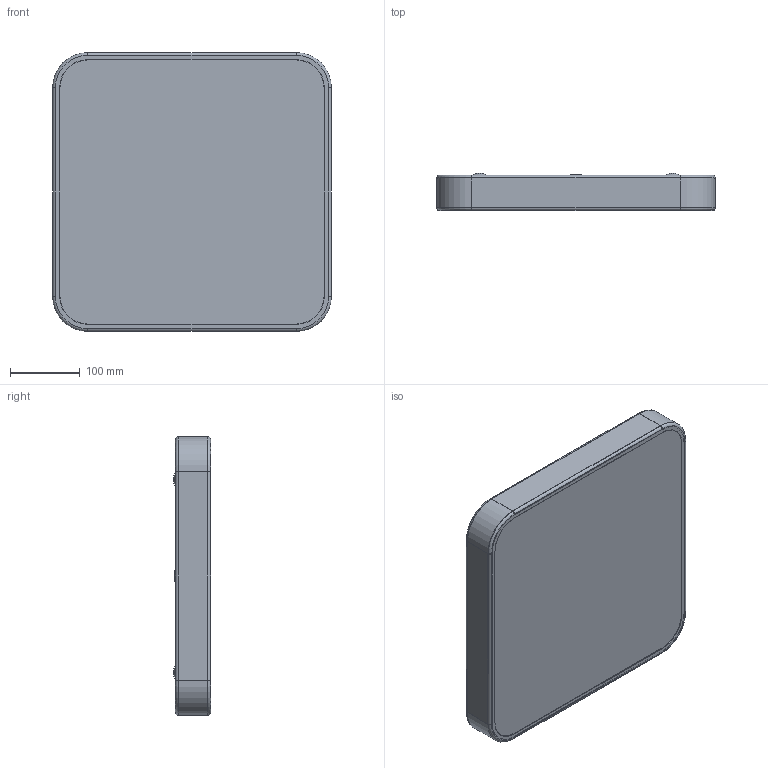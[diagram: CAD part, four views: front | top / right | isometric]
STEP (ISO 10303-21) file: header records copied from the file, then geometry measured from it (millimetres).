
FILE_DESCRIPTION((''),'2;1');
FILE_NAME('400_ASM','2026-03-17T17:02:02',('Administrator'),(''),'CREO PARAMETRIC BY PTC INC, 2021164','CREO PARAMETRIC BY PTC INC, 2021164','');
FILE_SCHEMA(('CONFIG_CONTROL_DESIGN','SHAPE_APPEARANCE_LAYERS_GROUPS'));
Length unit declared in the file: millimetre
Products named in the file (3): PRT0001__; PRT0002__; 400_ASM
Assembly tree (2 placements, depth 2):
  400_ASM
    PRT0001__
    PRT0002__
Bounding box: 400 x 53.46 x 400 mm (x, y, z)
Volume: 371469.9 mm3; surface area: 789379 mm2
Topology: 2 solids, 2 shells, 119 faces, 280 edges, 170 vertices
Faces by surface type: cylinder 56, plane 33, torus 22, sphere 8
Entity records: 5244 total; most frequent: DIRECTION 680, CARTESIAN_POINT 574, ORIENTED_EDGE 560, PRESENTATION_STYLE_ASSIGNMENT 401, STYLED_ITEM 401, CURVE_STYLE 280, EDGE_CURVE 280, AXIS2_PLACEMENT_3D 276
